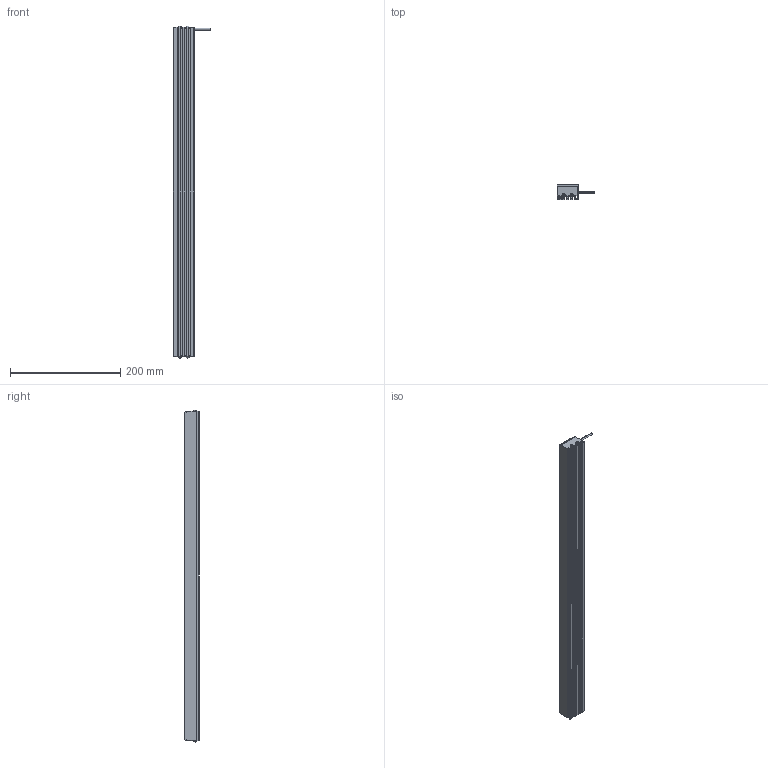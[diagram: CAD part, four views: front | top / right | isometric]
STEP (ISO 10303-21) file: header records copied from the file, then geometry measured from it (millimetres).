
FILE_DESCRIPTION((''),'2;1');
FILE_NAME('MV-LLDS-597-38_ASM','2020-12-30T',('Administrator'),(''),'PRO/ENGINEER BY PARAMETRIC TECHNOLOGY CORPORATION, 2010100','PRO/ENGINEER BY PARAMETRIC TECHNOLOGY CORPORATION, 2010100','');
FILE_SCHEMA(('CONFIG_CONTROL_DESIGN'));
Length unit declared in the file: millimetre
Products named in the file (3): BL-6_4_; M3-5_3; MV-LLDS-597-38_ASM
Assembly tree (5 placements, depth 2):
  MV-LLDS-597-38_ASM
    BL-6_4_
    M3-5_3  x4
Bounding box: 68 x 27 x 601.68 mm (x, y, z)
Volume: 499436.3 mm3; surface area: 143664.9 mm2
Topology: 5 solids, 13 shells, 349 faces, 934 edges, 604 vertices
Faces by surface type: plane 223, cylinder 78, cone 16, bspline 16, torus 8, sphere 8
Entity records: 8203 total; most frequent: CARTESIAN_POINT 1695, ORIENTED_EDGE 1338, DIRECTION 1310, EDGE_CURVE 679, VECTOR 514, LINE 514, VERTEX_POINT 445, AXIS2_PLACEMENT_3D 398
